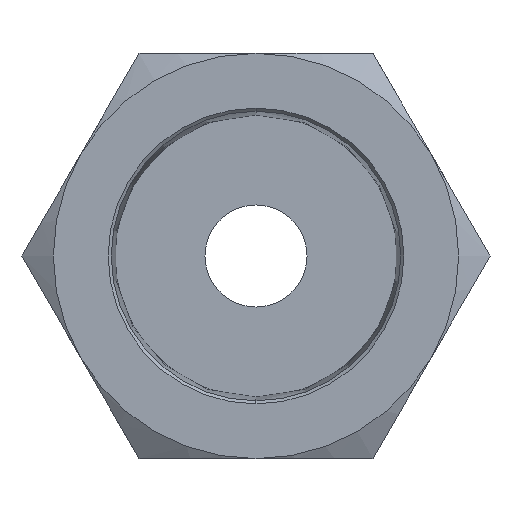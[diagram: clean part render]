
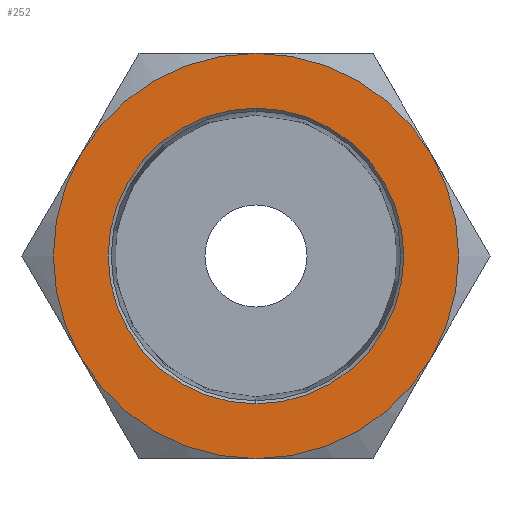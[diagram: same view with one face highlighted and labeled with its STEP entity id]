
A CAD part, left-side view. The second image highlights one B-rep face of the part: STEP entity #252.
In plain terms, the highlighted planar face has unit normal (-1, 0, 0).
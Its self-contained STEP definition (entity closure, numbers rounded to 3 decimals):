
#11 = VERTEX_POINT ( 'NONE', #308 ) ;
#16 = VERTEX_POINT ( 'NONE', #300 ) ;
#47 = EDGE_LOOP ( 'NONE', ( #48, #50 ) ) ;
#48 = ORIENTED_EDGE ( 'NONE', *, *, #49, .F. ) ;
#49 = EDGE_CURVE ( 'NONE', #180, #177, #588, .T. ) ;
#50 = ORIENTED_EDGE ( 'NONE', *, *, #179, .F. ) ;
#51 = EDGE_LOOP ( 'NONE', ( #479, #481, #483, #485, #487, #489 ) ) ;
#139 = VERTEX_POINT ( 'NONE', #918 ) ;
#161 = VERTEX_POINT ( 'NONE', #972 ) ;
#177 = VERTEX_POINT ( 'NONE', #781 ) ;
#179 = EDGE_CURVE ( 'NONE', #177, #180, #900, .T. ) ;
#180 = VERTEX_POINT ( 'NONE', #895 ) ;
#213 = VERTEX_POINT ( 'NONE', #1029 ) ;
#235 = VERTEX_POINT ( 'NONE', #1051 ) ;
#252 = ADVANCED_FACE ( 'NONE', ( #1163, #1161 ), #1159, .F. ) ;
#300 = CARTESIAN_POINT ( 'NONE',  ( 0., 8.249, -4.763 ) ) ;
#308 = CARTESIAN_POINT ( 'NONE',  ( 0., 8.249, 4.762 ) ) ;
#479 = ORIENTED_EDGE ( 'NONE', *, *, #480, .F. ) ;
#480 = EDGE_CURVE ( 'NONE', #235, #16, #1586, .T. ) ;
#481 = ORIENTED_EDGE ( 'NONE', *, *, #482, .F. ) ;
#482 = EDGE_CURVE ( 'NONE', #213, #235, #1578, .T. ) ;
#483 = ORIENTED_EDGE ( 'NONE', *, *, #484, .F. ) ;
#484 = EDGE_CURVE ( 'NONE', #161, #213, #1573, .T. ) ;
#485 = ORIENTED_EDGE ( 'NONE', *, *, #486, .F. ) ;
#486 = EDGE_CURVE ( 'NONE', #139, #161, #1568, .T. ) ;
#487 = ORIENTED_EDGE ( 'NONE', *, *, #488, .T. ) ;
#488 = EDGE_CURVE ( 'NONE', #139, #11, #1563, .T. ) ;
#489 = ORIENTED_EDGE ( 'NONE', *, *, #490, .F. ) ;
#490 = EDGE_CURVE ( 'NONE', #16, #11, #1615, .T. ) ;
#584 = DIRECTION ( 'NONE',  ( 0., 0., 1. ) ) ;
#585 = DIRECTION ( 'NONE',  ( -1., 0., 0. ) ) ;
#586 = CARTESIAN_POINT ( 'NONE',  ( 0., 0., 0. ) ) ;
#587 = AXIS2_PLACEMENT_3D ( 'NONE', #586, #585, #584 ) ;
#588 = CIRCLE ( 'NONE', #587, 6.95 ) ;
#781 = CARTESIAN_POINT ( 'NONE',  ( 0., 0., -6.95 ) ) ;
#895 = CARTESIAN_POINT ( 'NONE',  ( 0., 0., 6.95 ) ) ;
#896 = DIRECTION ( 'NONE',  ( 0., 0., 1. ) ) ;
#897 = DIRECTION ( 'NONE',  ( -1., 0., 0. ) ) ;
#898 = CARTESIAN_POINT ( 'NONE',  ( 0., 0., 0. ) ) ;
#899 = AXIS2_PLACEMENT_3D ( 'NONE', #898, #897, #896 ) ;
#900 = CIRCLE ( 'NONE', #899, 6.95 ) ;
#918 = CARTESIAN_POINT ( 'NONE',  ( 0., 0., 9.525 ) ) ;
#972 = CARTESIAN_POINT ( 'NONE',  ( 0., -8.249, 4.763 ) ) ;
#1029 = CARTESIAN_POINT ( 'NONE',  ( 0., -8.249, -4.762 ) ) ;
#1051 = CARTESIAN_POINT ( 'NONE',  ( 0., 0., -9.525 ) ) ;
#1147 = DIRECTION ( 'NONE',  ( 0., 0., -1. ) ) ;
#1148 = DIRECTION ( 'NONE',  ( 1., 0., 0. ) ) ;
#1149 = CARTESIAN_POINT ( 'NONE',  ( 0., 10.999, 0. ) ) ;
#1159 = PLANE ( 'NONE',  #1160 ) ;
#1160 = AXIS2_PLACEMENT_3D ( 'NONE', #1149, #1148, #1147 ) ;
#1161 = FACE_OUTER_BOUND ( 'NONE', #51, .T. ) ;
#1163 = FACE_BOUND ( 'NONE', #47, .T. ) ;
#1560 = DIRECTION ( 'NONE',  ( -1., 0., 0. ) ) ;
#1561 = CARTESIAN_POINT ( 'NONE',  ( 0., 0., 0. ) ) ;
#1562 = AXIS2_PLACEMENT_3D ( 'NONE', #1561, #1560, #1616 ) ;
#1563 = CIRCLE ( 'NONE', #1562, 9.525 ) ;
#1564 = DIRECTION ( 'NONE',  ( 0., 0., -1. ) ) ;
#1565 = DIRECTION ( 'NONE',  ( 1., 0., 0. ) ) ;
#1566 = CARTESIAN_POINT ( 'NONE',  ( 0., 0., 0. ) ) ;
#1567 = AXIS2_PLACEMENT_3D ( 'NONE', #1566, #1565, #1564 ) ;
#1568 = CIRCLE ( 'NONE', #1567, 9.525 ) ;
#1569 = DIRECTION ( 'NONE',  ( 0., 0., -1. ) ) ;
#1570 = DIRECTION ( 'NONE',  ( 1., 0., 0. ) ) ;
#1571 = CARTESIAN_POINT ( 'NONE',  ( 0., 0., 0. ) ) ;
#1572 = AXIS2_PLACEMENT_3D ( 'NONE', #1571, #1570, #1569 ) ;
#1573 = CIRCLE ( 'NONE', #1572, 9.525 ) ;
#1574 = DIRECTION ( 'NONE',  ( 0., 0., -1. ) ) ;
#1575 = DIRECTION ( 'NONE',  ( 1., 0., 0. ) ) ;
#1576 = CARTESIAN_POINT ( 'NONE',  ( 0., 0., 0. ) ) ;
#1577 = AXIS2_PLACEMENT_3D ( 'NONE', #1576, #1575, #1574 ) ;
#1578 = CIRCLE ( 'NONE', #1577, 9.525 ) ;
#1579 = DIRECTION ( 'NONE',  ( 0., 0., -1. ) ) ;
#1580 = DIRECTION ( 'NONE',  ( 1., 0., 0. ) ) ;
#1581 = CARTESIAN_POINT ( 'NONE',  ( 0., 0., 0. ) ) ;
#1582 = AXIS2_PLACEMENT_3D ( 'NONE', #1581, #1580, #1579 ) ;
#1586 = CIRCLE ( 'NONE', #1582, 9.525 ) ;
#1611 = DIRECTION ( 'NONE',  ( 0., 0., -1. ) ) ;
#1612 = DIRECTION ( 'NONE',  ( 1., 0., 0. ) ) ;
#1613 = CARTESIAN_POINT ( 'NONE',  ( 0., 0., 0. ) ) ;
#1614 = AXIS2_PLACEMENT_3D ( 'NONE', #1613, #1612, #1611 ) ;
#1615 = CIRCLE ( 'NONE', #1614, 9.525 ) ;
#1616 = DIRECTION ( 'NONE',  ( 0., 0., 1. ) ) ;
